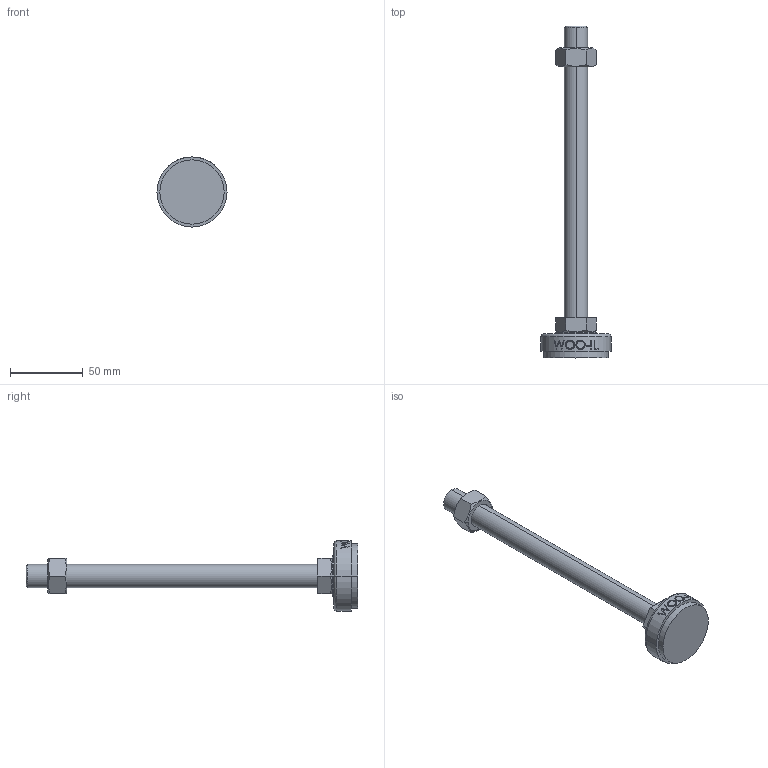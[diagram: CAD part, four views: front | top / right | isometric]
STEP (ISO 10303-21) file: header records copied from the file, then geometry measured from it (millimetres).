
FILE_DESCRIPTION (( 'STEP AP214' ), '1' );
FILE_NAME ('NS48-M16-200.step', '2021-01-11T05:44:13', ( '' ), ( '' ), 'SwSTEP 2.0', 'SolidWorks 2019', '' );
FILE_SCHEMA (( 'AUTOMOTIVE_DESIGN' ));
Length unit declared in the file: millimetre
Products named in the file (2): NS48-M16-200
Bounding box: 48 x 227.5 x 48 mm (x, y, z)
Volume: 77948.9 mm3; surface area: 20049.1 mm2
Topology: 3 solids, 3 shells, 96 faces, 223 edges, 144 vertices
Faces by surface type: plane 48, cylinder 18, bspline 16, cone 12, torus 2
Entity records: 4250 total; most frequent: CARTESIAN_POINT 2125, ORIENTED_EDGE 446, DIRECTION 381, EDGE_CURVE 223, VERTEX_POINT 144, AXIS2_PLACEMENT_3D 142, EDGE_LOOP 109, LINE 97
